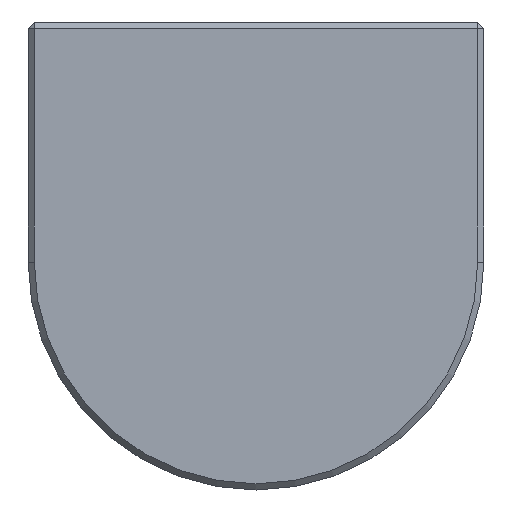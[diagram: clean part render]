
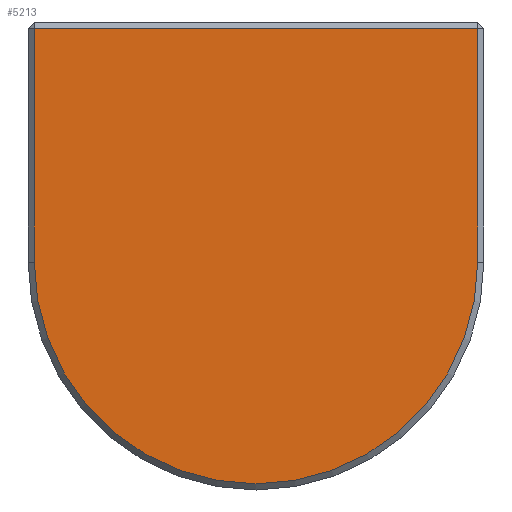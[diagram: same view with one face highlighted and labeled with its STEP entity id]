
A CAD part, front view. The second image highlights one B-rep face of the part: STEP entity #5213.
In plain terms, the highlighted free-form (B-spline) face has degree [1, 1] with [2, 2] control points.
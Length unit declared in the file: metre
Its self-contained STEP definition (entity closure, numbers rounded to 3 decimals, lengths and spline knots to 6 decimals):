
#23=B_SPLINE_SURFACE_WITH_KNOTS('',1,1,((#7529,#7530),(#7531,#7532)),
 .PLANE_SURF.,.F.,.F.,.F.,(2,2),(2,2),(0.,1.),(0.,1.),.UNSPECIFIED.);
#137=LINE('',#7533,#428);
#138=LINE('',#7536,#429);
#139=LINE('',#7538,#430);
#428=VECTOR('',#6085,1.);
#429=VECTOR('',#6086,1.);
#430=VECTOR('',#6087,1.);
#759=ORIENTED_EDGE('',*,*,#2405,.T.);
#760=ORIENTED_EDGE('',*,*,#2406,.T.);
#761=ORIENTED_EDGE('',*,*,#2407,.T.);
#762=ORIENTED_EDGE('',*,*,#2408,.T.);
#2405=EDGE_CURVE('',#3225,#3226,#137,.T.);
#2406=EDGE_CURVE('',#3226,#3227,#138,.T.);
#2407=EDGE_CURVE('',#3227,#3228,#139,.T.);
#2408=EDGE_CURVE('',#3228,#3225,#3763,.F.);
#3225=VERTEX_POINT('',#7534);
#3226=VERTEX_POINT('',#7535);
#3227=VERTEX_POINT('',#7537);
#3228=VERTEX_POINT('',#7539);
#3763=CIRCLE('',#5534,0.008988);
#4278=EDGE_LOOP('',(#759,#760,#761,#762));
#4638=FACE_BOUND('',#4278,.T.);
#5213=ADVANCED_FACE('',(#4638),#23,.F.);
#5534=AXIS2_PLACEMENT_3D('',#7540,#6088,#6089);
#6085=DIRECTION('',(0.,0.,1.));
#6086=DIRECTION('',(-1.,0.,0.));
#6087=DIRECTION('',(0.,0.,-1.));
#6088=DIRECTION('',(0.,1.,0.));
#6089=DIRECTION('',(0.,0.,1.));
#7529=CARTESIAN_POINT('',(0.008988,0.01,-0.003585));
#7530=CARTESIAN_POINT('',(0.008988,0.01,0.015));
#7531=CARTESIAN_POINT('',(-0.008988,0.01,-0.003585));
#7532=CARTESIAN_POINT('',(-0.008988,0.01,0.015));
#7533=CARTESIAN_POINT('',(0.008988,0.01,0.01525));
#7534=CARTESIAN_POINT('',(0.008988,0.01,0.005514));
#7535=CARTESIAN_POINT('',(0.008988,0.01,0.015));
#7536=CARTESIAN_POINT('',(0.,0.01,0.015));
#7537=CARTESIAN_POINT('',(-0.008988,0.01,0.015));
#7538=CARTESIAN_POINT('',(-0.008988,0.01,0.005514));
#7539=CARTESIAN_POINT('',(-0.008988,0.01,0.005514));
#7540=CARTESIAN_POINT('',(0.,0.01,0.005514));
